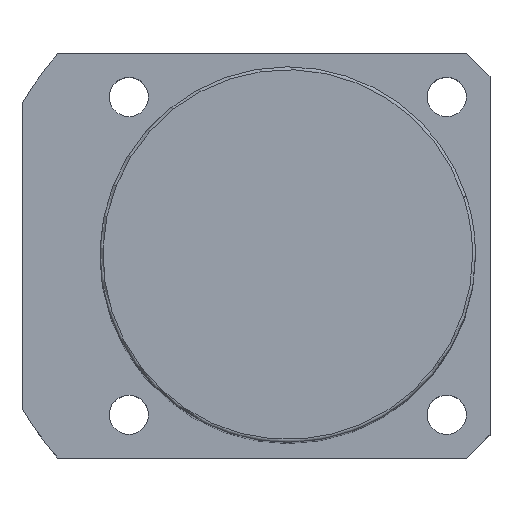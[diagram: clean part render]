
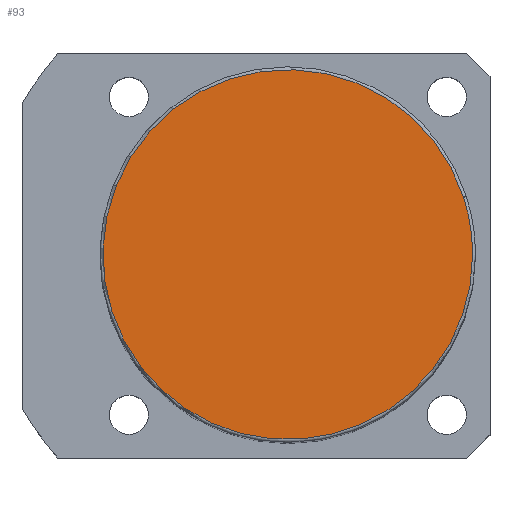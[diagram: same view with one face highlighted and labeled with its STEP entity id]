
A CAD part, top view. The second image highlights one B-rep face of the part: STEP entity #93.
In plain terms, the highlighted planar face has unit normal (0, 0, 1).
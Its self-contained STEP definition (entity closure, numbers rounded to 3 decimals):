
#16=CARTESIAN_POINT('',(30.434,9.889,141.0));
#17=VERTEX_POINT('',#16);
#45=CARTESIAN_POINT('',(-30.434,-9.889,141.0));
#46=VERTEX_POINT('',#45);
#54=CARTESIAN_POINT('',(0.0,0.0,141.0));
#55=DIRECTION('',(0.0,0.0,1.0));
#56=DIRECTION('',(1.0,0.0,0.0));
#57=AXIS2_PLACEMENT_3D('',#54,#55,#56);
#58=CIRCLE('',#57,32.0);
#59=EDGE_CURVE('no 890',#17,#46,#58,.T.);
#69=CARTESIAN_POINT('',(32.0,0.0,141.0));
#70=VERTEX_POINT('',#69);
#71=CARTESIAN_POINT('',(0.0,0.0,141.0));
#72=DIRECTION('',(0.0,0.0,1.0));
#73=DIRECTION('',(1.0,0.0,0.0));
#74=AXIS2_PLACEMENT_3D('',#71,#72,#73);
#75=CIRCLE('',#74,32.0);
#76=EDGE_CURVE('no 899',#70,#17,#75,.T.);
#77=ORIENTED_EDGE('',*,*,#76,.T.);
#78=ORIENTED_EDGE('',*,*,#59,.T.);
#79=CARTESIAN_POINT('',(0.0,0.0,141.0));
#80=DIRECTION('',(0.0,0.0,1.0));
#81=DIRECTION('',(1.0,0.0,0.0));
#82=AXIS2_PLACEMENT_3D('',#79,#80,#81);
#83=CIRCLE('',#82,32.0);
#84=EDGE_CURVE('no 905',#46,#70,#83,.T.);
#85=ORIENTED_EDGE('',*,*,#84,.T.);
#86=EDGE_LOOP('',(#77,#78,#85));
#87=FACE_OUTER_BOUND('',#86,.T.);
#88=CARTESIAN_POINT('',(0.0,0.0,141.0));
#89=DIRECTION('',(0.0,0.0,1.0));
#90=DIRECTION('',(1.0,0.0,0.0));
#91=AXIS2_PLACEMENT_3D('',#88,#89,#90);
#92=PLANE('',#91);
#93=ADVANCED_FACE('no 892',(#87),#92,.T.);
